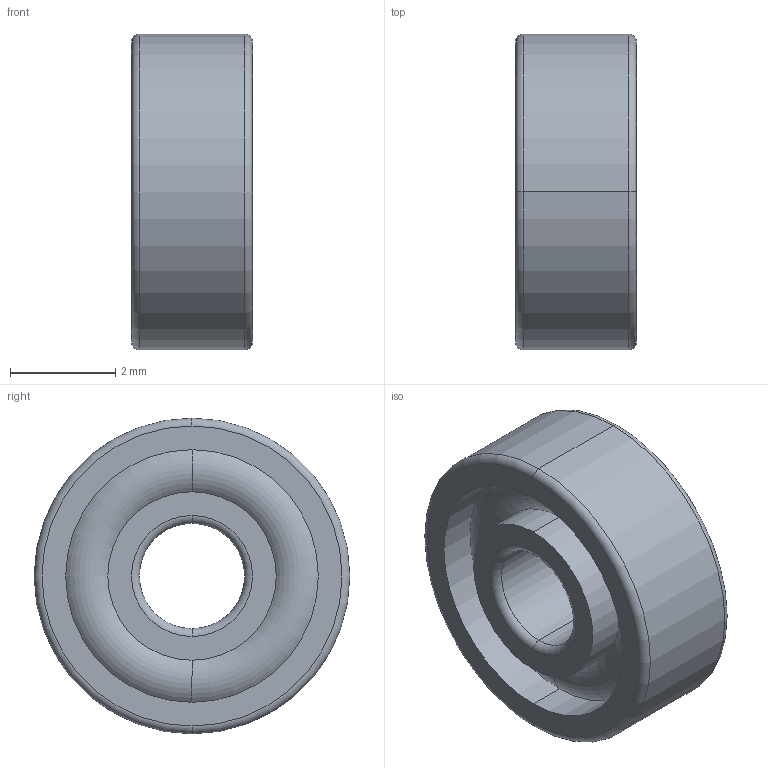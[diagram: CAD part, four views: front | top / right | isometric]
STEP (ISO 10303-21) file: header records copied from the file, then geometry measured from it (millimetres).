
FILE_DESCRIPTION (( 'STEP AP214' ), '1' );
FILE_NAME ('instrument ball bearing_68_am.STEP', '2016-02-27T11:24:27', ( '' ), ( '' ), 'SwSTEP 2.0', 'SolidWorks 2012', '' );
FILE_SCHEMA (( 'AUTOMOTIVE_DESIGN' ));
Length unit declared in the file: millimetre
Products named in the file (1): instrument ball bearing_68_am
Bounding box: 2.3 x 6 x 6 mm (x, y, z)
Volume: 45.5 mm3; surface area: 142.1 mm2
Topology: 1 solids, 1 shells, 28 faces, 56 edges, 32 vertices
Faces by surface type: torus 12, cylinder 12, plane 4
Entity records: 774 total; most frequent: DIRECTION 158, CARTESIAN_POINT 117, ORIENTED_EDGE 112, AXIS2_PLACEMENT_3D 73, EDGE_CURVE 56, CIRCLE 44, EDGE_LOOP 32, VERTEX_POINT 32
